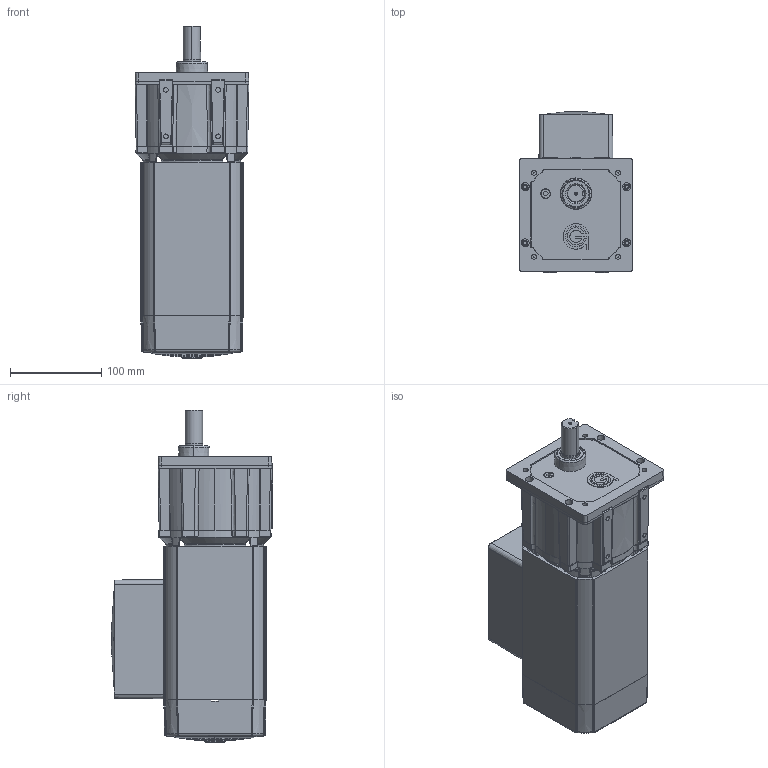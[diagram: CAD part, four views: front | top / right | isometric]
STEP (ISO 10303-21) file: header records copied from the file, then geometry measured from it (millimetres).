
FILE_DESCRIPTION (( 'STEP AP214' ), '1' );
FILE_NAME ('AC10080FC-PS2300.STEP', '2016-04-27T18:20:50', ( '' ), ( '' ), 'SwSTEP 2.0', 'SolidWorks 2015', '' );
FILE_SCHEMA (( 'AUTOMOTIVE_DESIGN' ));
Length unit declared in the file: millimetre
Products named in the file (1): AC10080FC-PS2300
Bounding box: 124.53 x 177.16 x 363.11 mm (x, y, z)
Surface area: 339322.9 mm2 (no closed solid volume)
Topology: 0 solids, 21 shells, 1236 faces, 4126 edges, 2790 vertices
Faces by surface type: plane 599, cylinder 277, cone 131, bspline 128, torus 85, sphere 16
Entity records: 64129 total; most frequent: CARTESIAN_POINT 15519, DIRECTION 7606, ORIENTED_EDGE 6772, EDGE_CURVE 4094, AXIS2_PLACEMENT_3D 3033, VERTEX_POINT 2782, CIRCLE 1924, LINE 1540
